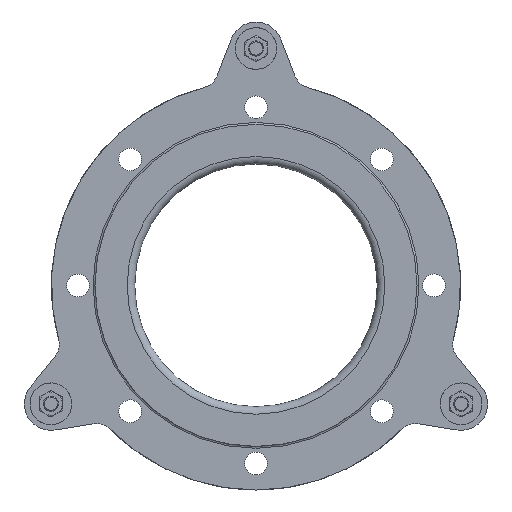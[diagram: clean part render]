
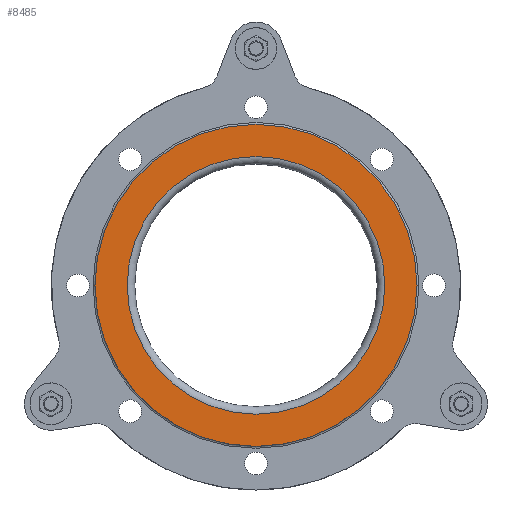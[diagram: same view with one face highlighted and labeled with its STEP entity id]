
A CAD part, front view. The second image highlights one B-rep face of the part: STEP entity #8485.
In plain terms, the highlighted planar face has unit normal (0, -1, 0).
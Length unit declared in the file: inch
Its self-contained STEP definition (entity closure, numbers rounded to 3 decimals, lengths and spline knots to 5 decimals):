
#1036=PLANE('',#9406);
#1864=FACE_BOUND('',#3004,.T.);
#2278=FACE_OUTER_BOUND('',#3003,.T.);
#3003=EDGE_LOOP('',(#7124));
#3004=EDGE_LOOP('',(#7125));
#3639=CIRCLE('',#9405,5.3125);
#3640=CIRCLE('',#9407,4.25);
#4294=VERTEX_POINT('',#14641);
#4295=VERTEX_POINT('',#14644);
#5277=EDGE_CURVE('',#4294,#4294,#3639,.T.);
#5278=EDGE_CURVE('',#4295,#4295,#3640,.T.);
#7124=ORIENTED_EDGE('',*,*,#5277,.T.);
#7125=ORIENTED_EDGE('',*,*,#5278,.F.);
#8485=ADVANCED_FACE('',(#2278,#1864),#1036,.T.);
#9405=AXIS2_PLACEMENT_3D('',#14642,#11336,#11337);
#9406=AXIS2_PLACEMENT_3D('',#14643,#11338,#11339);
#9407=AXIS2_PLACEMENT_3D('',#14645,#11340,#11341);
#11336=DIRECTION('center_axis',(0.,-1.,0.));
#11337=DIRECTION('ref_axis',(-1.,0.,0.));
#11338=DIRECTION('center_axis',(0.,-1.,0.));
#11339=DIRECTION('ref_axis',(-1.,0.,0.));
#11340=DIRECTION('center_axis',(0.,-1.,0.));
#11341=DIRECTION('ref_axis',(-1.,0.,0.));
#14641=CARTESIAN_POINT('',(-1.10846,-5.8125,-5.3125));
#14642=CARTESIAN_POINT('Origin',(-1.10846,-5.8125,0.));
#14643=CARTESIAN_POINT('Origin',(-1.10846,-5.8125,-4.25));
#14644=CARTESIAN_POINT('',(-1.10846,-5.8125,-4.25));
#14645=CARTESIAN_POINT('Origin',(-1.10846,-5.8125,0.));
